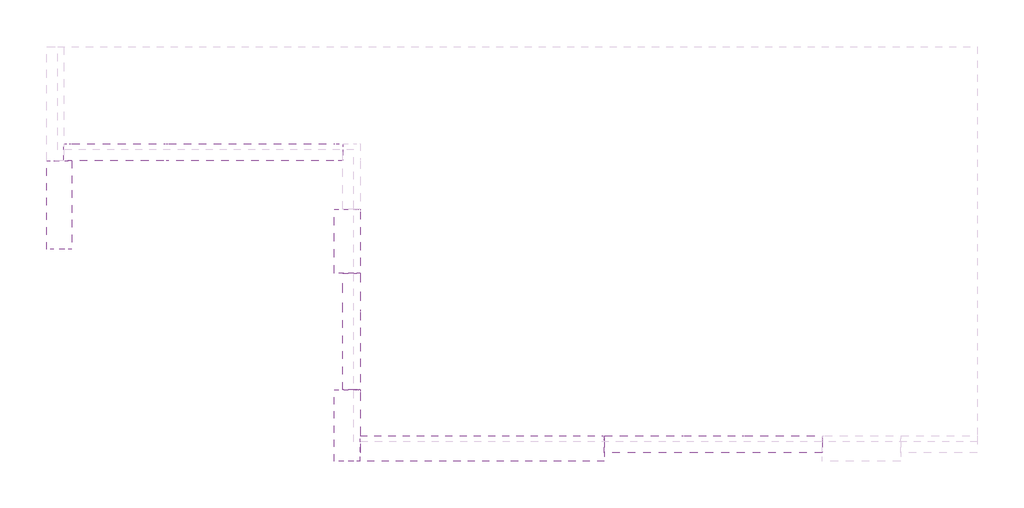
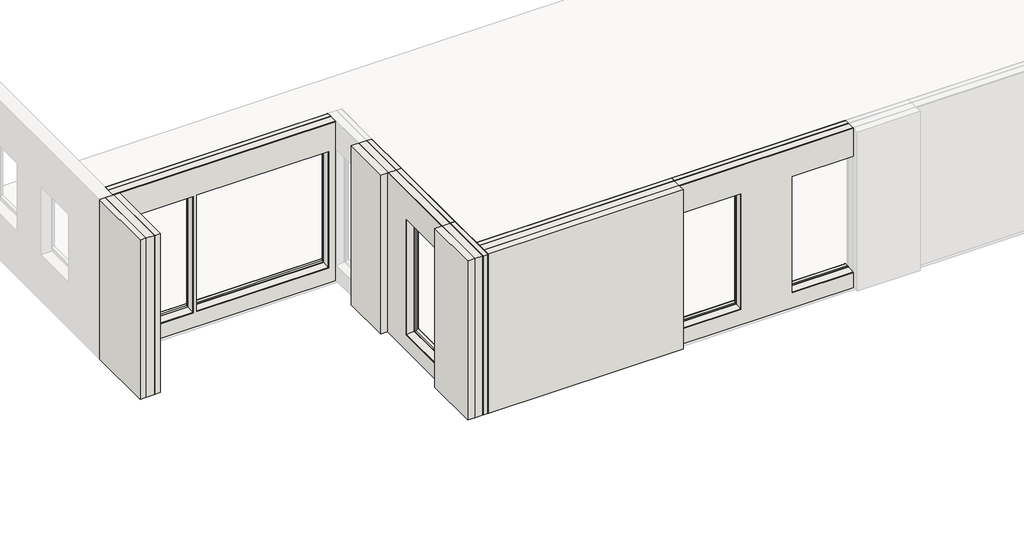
# One storey, part 1 of 2: 7 walls.
"""IFC4 building model written with IfcOpenShell, lengths in millimetres."""

from ifc_helpers import new_model, si_unit, frame, origin, place, context, project, spatial, polyline, outline, extrude, faceted_brep, element, save

model = new_model("IFC4")

# Units and contexts
model_context = context("Model", 3, world=origin())
ifc_project = project(units=[si_unit("LENGTHUNIT", "METRE", prefix="MILLI")], contexts=[model_context])

# Site, building, storey
site = spatial("IfcSite", under=ifc_project)
building = spatial("IfcBuilding", under=site)
storey = spatial("IfcBuildingStorey", under=building, Name="Dalle T.O.", Elevation=-4000.0)

# Walls
placement = place(None, origin())
element("IfcWall", 1, ObjectType="Murs - Mur de base - A Enduit 2 + Béton 20 + vide 1 +  Doublage 13", at=placement, inside=storey, context=model_context, shape_type="Brep", body=[
    faceted_brep([(-18738.6355893, -14338.5662223, 3950.0), (-14238.6355893, -14338.5662223, 3950.0), (-14238.6355893, -14318.5662223, 3950.0), (-18738.6355893, -14318.5662223, 3950.0), (-18738.6355893, -14338.5662223, -400.0), (-18738.6355893, -14318.5662223, -400.0), (-14238.6355893, -14318.5662223, -400.0), (-14238.6355893, -14338.5662223, -400.0), (-18738.6355893, -14338.5662223, 3185.0), (-17138.6355893, -14338.5662223, 3185.0), (-17138.6355893, -14338.5662223, 5.5708141), (-18738.6355893, -14338.5662223, 5.5708141), (-14238.6355893, -14338.5662223, 5.5708141), (-15838.6355893, -14338.5662223, 5.5708141), (-15838.6355893, -14338.5662223, 3185.0), (-14238.6355893, -14338.5662223, 3185.0), (-14238.6355893, -14318.5662223, 3185.0), (-14238.6355893, -14318.5662223, 7.6728988), (-15838.6355893, -14318.5662223, 3185.0), (-15838.6355893, -14318.5662223, 7.6728988), (-18738.6355893, -14318.5662223, 7.6728988), (-17138.6355893, -14318.5662223, 7.6728988), (-17138.6355893, -14318.5662223, 3185.0), (-18738.6355893, -14318.5662223, 3185.0)], [[[0, 1, 2, 3]], [[4, 5, 6, 7]], [[1, 0, 8, 9, 10, 11, 4, 7, 12, 13, 14, 15]], [[2, 1, 15, 16]], [[7, 6, 17, 12]], [[3, 2, 16, 18, 19, 17, 6, 5, 20, 21, 22, 23]], [[0, 3, 23, 8]], [[5, 4, 11, 20]], [[15, 14, 18, 16]], [[13, 12, 17, 19]], [[14, 13, 19, 18]], [[9, 22, 21, 10]], [[22, 9, 8, 23]], [[10, 21, 20, 11]]]),
    faceted_brep([(-18738.6355893, -14318.5662223, 3950.0), (-14238.6355893, -14318.5662223, 3950.0), (-14238.6355893, -14118.5662223, 3950.0), (-18738.6355893, -14118.5662223, 3950.0), (-18738.6355893, -14318.5662223, -400.0), (-18738.6355893, -14118.5662223, -400.0), (-14238.6355893, -14118.5662223, -400.0), (-14238.6355893, -14318.5662223, -400.0), (-18738.6355893, -14318.5662223, 3185.0), (-17138.6355893, -14318.5662223, 3185.0), (-17138.6355893, -14318.5662223, 7.6728988), (-18738.6355893, -14318.5662223, 7.6728988), (-14238.6355893, -14318.5662223, 7.6728988), (-15838.6355893, -14318.5662223, 7.6728988), (-15838.6355893, -14318.5662223, 3185.0), (-14238.6355893, -14318.5662223, 3185.0), (-14238.6355893, -14118.5662223, 3185.0), (-14238.6355893, -14118.5662223, 28.6937459), (-15838.6355893, -14118.5662223, 3185.0), (-15838.6355893, -14118.5662223, 28.6937459), (-18738.6355893, -14118.5662223, 28.6937459), (-17138.6355893, -14118.5662223, 28.6937459), (-17138.6355893, -14118.5662223, 3185.0), (-18738.6355893, -14118.5662223, 3185.0)], [[[0, 1, 2, 3]], [[4, 5, 6, 7]], [[1, 0, 8, 9, 10, 11, 4, 7, 12, 13, 14, 15]], [[2, 1, 15, 16]], [[7, 6, 17, 12]], [[3, 2, 16, 18, 19, 17, 6, 5, 20, 21, 22, 23]], [[0, 3, 23, 8]], [[5, 4, 11, 20]], [[15, 14, 18, 16]], [[13, 12, 17, 19]], [[14, 13, 19, 18]], [[9, 22, 21, 10]], [[22, 9, 8, 23]], [[10, 21, 20, 11]]]),
    faceted_brep([(-18738.6355893, -14118.5662223, 3950.0), (-14238.6355893, -14118.5662223, 3950.0), (-14238.6355893, -14108.5662223, 3950.0), (-18738.6355893, -14108.5662223, 3950.0), (-18738.6355893, -14118.5662223, -400.0), (-18738.6355893, -14108.5662223, -400.0), (-14238.6355893, -14108.5662223, -400.0), (-14238.6355893, -14118.5662223, -400.0), (-18738.6355893, -14118.5662223, 3185.0), (-17138.6355893, -14118.5662223, 3185.0), (-17138.6355893, -14118.5662223, 28.6937459), (-18738.6355893, -14118.5662223, 28.6937459), (-14238.6355893, -14118.5662223, 28.6937459), (-15838.6355893, -14118.5662223, 28.6937459), (-15838.6355893, -14118.5662223, 3185.0), (-14238.6355893, -14118.5662223, 3185.0), (-14238.6355893, -14108.5662223, 3185.0), (-14238.6355893, -14108.5662223, 29.7447882), (-15838.6355893, -14108.5662223, 3185.0), (-15838.6355893, -14108.5662223, 29.7447882), (-18738.6355893, -14108.5662223, 29.7447882), (-17138.6355893, -14108.5662223, 29.7447882), (-17138.6355893, -14108.5662223, 3185.0), (-18738.6355893, -14108.5662223, 3185.0)], [[[0, 1, 2, 3]], [[4, 5, 6, 7]], [[1, 0, 8, 9, 10, 11, 4, 7, 12, 13, 14, 15]], [[2, 1, 15, 16]], [[7, 6, 17, 12]], [[3, 2, 16, 18, 19, 17, 6, 5, 20, 21, 22, 23]], [[0, 3, 23, 8]], [[5, 4, 11, 20]], [[15, 14, 18, 16]], [[13, 12, 17, 19]], [[14, 13, 19, 18]], [[9, 22, 21, 10]], [[22, 9, 8, 23]], [[10, 21, 20, 11]]]),
    faceted_brep([(-18738.6355893, -14108.5662223, 3950.0), (-14238.6355893, -14108.5662223, 3950.0), (-14238.6355893, -13988.5662223, 3950.0), (-18738.6355893, -13988.5662223, 3950.0), (-18738.6355893, -14108.5662223, -400.0), (-18738.6355893, -13988.5662223, -400.0), (-14238.6355893, -13988.5662223, -400.0), (-14238.6355893, -14108.5662223, -400.0), (-18738.6355893, -14108.5662223, 3185.0), (-17138.6355893, -14108.5662223, 3185.0), (-17138.6355893, -14108.5662223, 29.7447882), (-18738.6355893, -14108.5662223, 29.7447882), (-14238.6355893, -14108.5662223, 29.7447882), (-15838.6355893, -14108.5662223, 29.7447882), (-15838.6355893, -14108.5662223, 3185.0), (-14238.6355893, -14108.5662223, 3185.0), (-14238.6355893, -14078.5662223, 3185.0), (-14238.6355893, -14078.5662223, 3195.0), (-14238.6355893, -14028.5662223, 3195.0), (-14238.6355893, -14028.5662223, 3235.0), (-14238.6355893, -13988.5662223, 3235.0), (-14238.6355893, -13988.5662223, 35.0), (-14238.6355893, -14058.5662223, 35.0), (-15888.6355893, -13988.5662223, 3235.0), (-15888.6355893, -13988.5662223, 35.0), (-18738.6355893, -13988.5662223, 35.0), (-17088.6355893, -13988.5662223, 35.0), (-17088.6355893, -13988.5662223, 3235.0), (-18738.6355893, -13988.5662223, 3235.0), (-18738.6355893, -14028.5662223, 3235.0), (-18738.6355893, -14028.5662223, 3195.0), (-18738.6355893, -14078.5662223, 3195.0), (-18738.6355893, -14078.5662223, 3185.0), (-18738.6355893, -14058.5662223, 35.0), (-15888.6355893, -14028.5662223, 35.0), (-15848.6355893, -14028.5662223, 35.0), (-15848.6355893, -14078.5662223, 35.0), (-15838.6355893, -14078.5662223, 35.0), (-15838.6355893, -14058.5662223, 35.0), (-15838.6355893, -14078.5662223, 3185.0), (-15848.6355893, -14028.5662223, 3195.0), (-15888.6355893, -14028.5662223, 3235.0), (-15848.6355893, -14078.5662223, 3195.0), (-17138.6355893, -14078.5662223, 35.0), (-17138.6355893, -14058.5662223, 35.0), (-17138.6355893, -14078.5662223, 3185.0), (-17128.6355893, -14078.5662223, 35.0), (-17128.6355893, -14028.5662223, 35.0), (-17088.6355893, -14028.5662223, 35.0), (-17088.6355893, -14028.5662223, 3235.0), (-17128.6355893, -14028.5662223, 3195.0), (-17128.6355893, -14078.5662223, 3195.0)], [[[0, 1, 2, 3]], [[4, 5, 6, 7]], [[1, 0, 8, 9, 10, 11, 4, 7, 12, 13, 14, 15]], [[2, 1, 15, 16, 17, 18, 19, 20]], [[7, 6, 21, 22, 12]], [[3, 2, 20, 23, 24, 21, 6, 5, 25, 26, 27, 28]], [[0, 3, 28, 29, 30, 31, 32, 8]], [[5, 4, 11, 33, 25]], [[22, 21, 24, 34, 35, 36, 37, 38]], [[15, 14, 39, 16]], [[13, 12, 22, 38]], [[19, 18, 40, 35, 34, 41]], [[17, 16, 39, 37, 36, 42]], [[20, 19, 41, 23]], [[18, 17, 42, 40]], [[24, 23, 41, 34]], [[36, 35, 40, 42]], [[14, 13, 38, 37, 39]], [[43, 44, 10, 9, 45]], [[44, 43, 46, 47, 48, 26, 25, 33]], [[32, 45, 9, 8]], [[44, 33, 11, 10]], [[48, 49, 27, 26]], [[48, 47, 50, 30, 29, 49]], [[47, 46, 51, 50]], [[43, 45, 32, 31, 51, 46]], [[27, 49, 29, 28]], [[50, 51, 31, 30]]]),
    faceted_brep([(-18738.6355893, -13988.5662223, 3950.0), (-14238.6355893, -13988.5662223, 3950.0), (-14238.6355893, -13978.5662223, 3950.0), (-18738.6355893, -13978.5662223, 3950.0), (-18738.6355893, -13988.5662223, -400.0), (-18738.6355893, -13978.5662223, -400.0), (-14238.6355893, -13978.5662223, -400.0), (-14238.6355893, -13988.5662223, -400.0), (-18738.6355893, -13988.5662223, 3235.0), (-17088.6355893, -13988.5662223, 3235.0), (-17088.6355893, -13988.5662223, 35.0), (-18738.6355893, -13988.5662223, 35.0), (-14238.6355893, -13988.5662223, 35.0), (-15888.6355893, -13988.5662223, 35.0), (-15888.6355893, -13988.5662223, 3235.0), (-14238.6355893, -13988.5662223, 3235.0), (-14238.6355893, -13978.5662223, 3235.0), (-14238.6355893, -13978.5662223, 35.0), (-15888.6355893, -13978.5662223, 3235.0), (-15888.6355893, -13978.5662223, 35.0), (-15838.6355893, -13978.5662223, 35.0), (-18738.6355893, -13978.5662223, 35.0), (-17138.6355893, -13978.5662223, 35.0), (-17088.6355893, -13978.5662223, 35.0), (-17088.6355893, -13978.5662223, 3235.0), (-18738.6355893, -13978.5662223, 3235.0)], [[[0, 1, 2, 3]], [[4, 5, 6, 7]], [[1, 0, 8, 9, 10, 11, 4, 7, 12, 13, 14, 15]], [[2, 1, 15, 16]], [[7, 6, 17, 12]], [[3, 2, 16, 18, 19, 20, 17, 6, 5, 21, 22, 23, 24, 25]], [[0, 3, 25, 8]], [[5, 4, 11, 21]], [[13, 12, 17, 20, 19]], [[15, 14, 18, 16]], [[14, 13, 19, 18]], [[10, 23, 22, 21, 11]], [[23, 10, 9, 24]], [[24, 9, 8, 25]]]),
])
element("IfcWall", 2, ObjectType="Murs - Mur de base - A Parement pierre 19 + Béton 20 + vide 1 +   Doublage 14", at=placement, inside=storey, context=model_context, shape_type="SolidModel", body=[
    faceted_brep([(-23778.2803137, -14508.5662223, 3950.0), (-18738.6355893, -14508.5662223, 3950.0), (-18738.6355893, -14318.5662223, 3950.0), (-23778.2803137, -14318.5662223, 3950.0), (-23778.2803137, -14508.5662223, -400.0), (-23778.2803137, -14318.5662223, -400.0), (-18738.6355893, -14318.5662223, -400.0), (-18738.6355893, -14508.5662223, -400.0), (-18738.6355893, -14508.5662223, 0.0), (-18738.6355893, -14508.5662223, 3185.0), (-18738.6355893, -14318.5662223, 7.6728988), (-18738.6355893, -14318.5662223, 3185.0)], [[[0, 1, 2, 3]], [[4, 5, 6, 7]], [[1, 0, 4, 7, 8, 9]], [[2, 1, 9, 8, 7, 6, 10, 11]], [[3, 2, 11, 10, 6, 5]], [[0, 3, 5, 4]]]),
    faceted_brep([(-23778.2803137, -14318.5662223, 3950.0), (-18738.6355893, -14318.5662223, 3950.0), (-18738.6355893, -14118.5662223, 3950.0), (-23778.2803137, -14118.5662223, 3950.0), (-23778.2803137, -14318.5662223, -400.0), (-23778.2803137, -14118.5662223, -400.0), (-18738.6355893, -14118.5662223, -400.0), (-18738.6355893, -14318.5662223, -400.0), (-18738.6355893, -14318.5662223, 7.6728988), (-18738.6355893, -14318.5662223, 3185.0), (-18738.6355893, -14118.5662223, 28.6937459), (-18738.6355893, -14118.5662223, 3185.0)], [[[0, 1, 2, 3]], [[4, 5, 6, 7]], [[1, 0, 4, 7, 8, 9]], [[2, 1, 9, 8, 7, 6, 10, 11]], [[3, 2, 11, 10, 6, 5]], [[0, 3, 5, 4]]]),
    faceted_brep([(-23778.2803137, -14118.5662223, 3950.0), (-18738.6355893, -14118.5662223, 3950.0), (-18738.6355893, -14108.5662223, 3950.0), (-23778.2803137, -14108.5662223, 3950.0), (-23778.2803137, -14118.5662223, -400.0), (-23778.2803137, -14108.5662223, -400.0), (-18738.6355893, -14108.5662223, -400.0), (-18738.6355893, -14118.5662223, -400.0), (-18738.6355893, -14118.5662223, 28.6937459), (-18738.6355893, -14118.5662223, 3185.0), (-18738.6355893, -14108.5662223, 29.7447882), (-18738.6355893, -14108.5662223, 3185.0)], [[[0, 1, 2, 3]], [[4, 5, 6, 7]], [[1, 0, 4, 7, 8, 9]], [[2, 1, 9, 8, 7, 6, 10, 11]], [[3, 2, 11, 10, 6, 5]], [[0, 3, 5, 4]]]),
    faceted_brep([(-23778.2803137, -14108.5662223, 3950.0), (-18738.6355893, -14108.5662223, 3950.0), (-18738.6355893, -13988.5662223, 3950.0), (-23778.2803137, -13988.5662223, 3950.0), (-23778.2803137, -14108.5662223, -400.0), (-23778.2803137, -13988.5662223, -400.0), (-18738.6355893, -13988.5662223, -400.0), (-18738.6355893, -14108.5662223, -400.0), (-18738.6355893, -14108.5662223, 29.7447882), (-18738.6355893, -14108.5662223, 3185.0), (-18738.6355893, -13988.5662223, 35.0), (-18738.6355893, -14058.5662223, 35.0), (-18738.6355893, -14078.5662223, 35.0), (-18738.6355893, -14078.5662223, 3185.0), (-18738.6355893, -14078.5662223, 3195.0), (-18738.6355893, -14028.5662223, 3195.0), (-18738.6355893, -14028.5662223, 3235.0), (-18738.6355893, -13988.5662223, 3235.0), (-18788.6355893, -13988.5662223, 3235.0), (-18788.6355893, -13988.5662223, 35.0), (-18748.6355893, -14078.5662223, 35.0), (-18788.6355893, -14028.5662223, 35.0), (-18748.6355893, -14028.5662223, 35.0), (-18788.6355893, -14028.5662223, 3235.0), (-18748.6355893, -14028.5662223, 3195.0), (-18748.6355893, -14078.5662223, 3195.0)], [[[0, 1, 2, 3]], [[4, 5, 6, 7]], [[1, 0, 4, 7, 8, 9]], [[2, 1, 9, 8, 7, 6, 10, 11, 12, 13, 14, 15, 16, 17]], [[3, 2, 17, 18, 19, 10, 6, 5]], [[0, 3, 5, 4]], [[20, 12, 11, 10, 19, 21, 22]], [[22, 21, 23, 16, 15, 24]], [[12, 20, 25, 14, 13]], [[16, 23, 18, 17]], [[25, 24, 15, 14]], [[23, 21, 19, 18]], [[20, 22, 24, 25]]]),
    extrude(outline(polyline([(3950.0, -18738.6355893), (3950.0, -23778.2803137), (-400.0, -23778.2803137), (-400.0, -18738.6355893), (35.0, -18738.6355893), (35.0, -18788.6355893), (3235.0, -18788.6355893), (3235.0, -18738.6355893), (3950.0, -18738.6355893)])), frame((0.0, -13988.5662223, 0.0), z_axis=(0.0, 1.0, 0.0), x_axis=(0.0, 0.0, 1.0)), (0.0, 0.0, 1.0), 10.0),
])
element("IfcWall", 3, ObjectType="Murs - Mur de base - A Parement pierre 19 + Béton 20 + vide 1 +   Doublage 14", at=placement, inside=storey, context=model_context, shape_type="SolidModel", body=[
    faceted_brep([(-24308.2803137, -13036.9624952, 3950.0), (-24308.2803137, -14508.5662223, 3950.0), (-24118.2803137, -14508.5662223, 3950.0), (-24118.2803137, -13036.9624952, 3950.0), (-24308.2803137, -13036.9624952, -400.0), (-24118.2803137, -13036.9624952, -400.0), (-24118.2803137, -14508.5662223, -400.0), (-24308.2803137, -14508.5662223, -400.0), (-24308.2803137, -13036.9624952, 3185.0), (-24308.2803137, -13036.9624952, 0.0), (-24118.2803137, -13036.9624952, 7.6728988), (-24118.2803137, -13036.9624952, 3185.0)], [[[0, 1, 2, 3]], [[4, 5, 6, 7]], [[1, 0, 8, 9, 4, 7]], [[2, 1, 7, 6]], [[3, 2, 6, 5, 10, 11]], [[0, 3, 11, 10, 5, 4, 9, 8]]]),
    faceted_brep([(-24118.2803137, -13036.9624952, 3950.0), (-24118.2803137, -14508.5662223, 3950.0), (-23918.2803137, -14508.5662223, 3950.0), (-23918.2803137, -13036.9624952, 3950.0), (-24118.2803137, -13036.9624952, -400.0), (-23918.2803137, -13036.9624952, -400.0), (-23918.2803137, -14508.5662223, -400.0), (-24118.2803137, -14508.5662223, -400.0), (-24118.2803137, -13036.9624952, 3185.0), (-24118.2803137, -13036.9624952, 7.6728988), (-23918.2803137, -13036.9624952, 28.6937459), (-23918.2803137, -13036.9624952, 3185.0)], [[[0, 1, 2, 3]], [[4, 5, 6, 7]], [[1, 0, 8, 9, 4, 7]], [[2, 1, 7, 6]], [[3, 2, 6, 5, 10, 11]], [[0, 3, 11, 10, 5, 4, 9, 8]]]),
    faceted_brep([(-23918.2803137, -13036.9624952, 3950.0), (-23918.2803137, -14508.5662223, 3950.0), (-23908.2803137, -14508.5662223, 3950.0), (-23908.2803137, -13036.9624952, 3950.0), (-23918.2803137, -13036.9624952, -400.0), (-23908.2803137, -13036.9624952, -400.0), (-23908.2803137, -14508.5662223, -400.0), (-23918.2803137, -14508.5662223, -400.0), (-23918.2803137, -13036.9624952, 3185.0), (-23918.2803137, -13036.9624952, 28.6937459), (-23908.2803137, -13036.9624952, 29.7447882), (-23908.2803137, -13036.9624952, 3185.0)], [[[0, 1, 2, 3]], [[4, 5, 6, 7]], [[1, 0, 8, 9, 4, 7]], [[2, 1, 7, 6]], [[3, 2, 6, 5, 10, 11]], [[0, 3, 11, 10, 5, 4, 9, 8]]]),
    faceted_brep([(-23908.2803137, -13036.9624952, 3950.0), (-23908.2803137, -14508.5662223, 3950.0), (-23788.2803137, -14508.5662223, 3950.0), (-23788.2803137, -13036.9624952, 3950.0), (-23908.2803137, -13036.9624952, -400.0), (-23788.2803137, -13036.9624952, -400.0), (-23788.2803137, -14508.5662223, -400.0), (-23908.2803137, -14508.5662223, -400.0), (-23908.2803137, -13036.9624952, 3185.0), (-23908.2803137, -13036.9624952, 29.7447882), (-23788.2803137, -13036.9624952, 35.0), (-23788.2803137, -13086.9624952, 35.0), (-23788.2803137, -13086.9624952, 3235.0), (-23788.2803137, -13036.9624952, 3235.0), (-23828.2803137, -13036.9624952, 3235.0), (-23828.2803137, -13036.9624952, 3195.0), (-23878.2803137, -13036.9624952, 3195.0), (-23878.2803137, -13036.9624952, 3185.0), (-23878.2803137, -13036.9624952, 35.0), (-23858.2803137, -13036.9624952, 35.0), (-23828.2803137, -13046.9624952, 35.0), (-23828.2803137, -13086.9624952, 35.0), (-23878.2803137, -13046.9624952, 35.0), (-23828.2803137, -13086.9624952, 3235.0), (-23828.2803137, -13046.9624952, 3195.0), (-23878.2803137, -13046.9624952, 3195.0)], [[[0, 1, 2, 3]], [[4, 5, 6, 7]], [[1, 0, 8, 9, 4, 7]], [[2, 1, 7, 6]], [[3, 2, 6, 5, 10, 11, 12, 13]], [[0, 3, 13, 14, 15, 16, 17, 18, 19, 10, 5, 4, 9, 8]], [[20, 21, 11, 10, 19, 18, 22]], [[21, 23, 12, 11]], [[21, 20, 24, 15, 14, 23]], [[20, 22, 25, 24]], [[22, 18, 17, 16, 25]], [[12, 23, 14, 13]], [[24, 25, 16, 15]]]),
    extrude(outline(polyline([(-14508.5662223, 3950.0), (-13036.9624952, 3950.0), (-13036.9624952, 3235.0), (-13086.9624952, 3235.0), (-13086.9624952, 35.0), (-13036.9624952, 35.0), (-13036.9624952, -400.0), (-14508.5662223, -400.0), (-14508.5662223, 3950.0)])), frame((-23788.2803137, 0.0, 0.0), z_axis=(1.0, 0.0, 0.0), x_axis=(0.0, 1.0, 0.0)), (0.0, 0.0, 1.0), 10.0),
])
element("IfcWall", 4, ObjectType="Murs - Mur de base - A Enduit 2 + Béton 20 + vide 1 +  Doublage 13", at=placement, inside=storey, context=model_context, shape_type="Brep", body=[
    faceted_brep([(-24138.2803137, -10630.5073036, 3950.0), (-24138.2803137, -13036.9624952, 3950.0), (-24118.2803137, -13036.9624952, 3950.0), (-24118.2803137, -10630.5073036, 3950.0), (-24138.2803137, -10630.5073036, -400.0), (-24118.2803137, -10630.5073036, -400.0), (-24118.2803137, -13036.9624952, -400.0), (-24138.2803137, -13036.9624952, -400.0), (-24138.2803137, -13036.9624952, 5.5708141), (-24138.2803137, -11436.9624952, 5.5708141), (-24138.2803137, -11436.9624952, 3185.0), (-24138.2803137, -13036.9624952, 3185.0), (-24118.2803137, -13036.9624952, 3185.0), (-24118.2803137, -13036.9624952, 7.6728988), (-24118.2803137, -11436.9624952, 3185.0), (-24118.2803137, -11436.9624952, 7.6728988)], [[[0, 1, 2, 3]], [[4, 5, 6, 7]], [[1, 0, 4, 7, 8, 9, 10, 11]], [[2, 1, 11, 12]], [[7, 6, 13, 8]], [[3, 2, 12, 14, 15, 13, 6, 5]], [[0, 3, 5, 4]], [[10, 14, 12, 11]], [[15, 9, 8, 13]], [[14, 10, 9, 15]]]),
    faceted_brep([(-24118.2803137, -10630.5073036, 3950.0), (-24118.2803137, -13036.9624952, 3950.0), (-23918.2803137, -13036.9624952, 3950.0), (-23918.2803137, -10630.5073036, 3950.0), (-24118.2803137, -10630.5073036, -400.0), (-23918.2803137, -10630.5073036, -400.0), (-23918.2803137, -13036.9624952, -400.0), (-24118.2803137, -13036.9624952, -400.0), (-24118.2803137, -13036.9624952, 7.6728988), (-24118.2803137, -11436.9624952, 7.6728988), (-24118.2803137, -11436.9624952, 3185.0), (-24118.2803137, -13036.9624952, 3185.0), (-23918.2803137, -13036.9624952, 3185.0), (-23918.2803137, -13036.9624952, 28.6937459), (-23918.2803137, -11436.9624952, 3185.0), (-23918.2803137, -11436.9624952, 28.6937459)], [[[0, 1, 2, 3]], [[4, 5, 6, 7]], [[1, 0, 4, 7, 8, 9, 10, 11]], [[2, 1, 11, 12]], [[7, 6, 13, 8]], [[3, 2, 12, 14, 15, 13, 6, 5]], [[0, 3, 5, 4]], [[10, 14, 12, 11]], [[15, 9, 8, 13]], [[14, 10, 9, 15]]]),
    faceted_brep([(-23918.2803137, -10630.5073036, 3950.0), (-23918.2803137, -13036.9624952, 3950.0), (-23908.2803137, -13036.9624952, 3950.0), (-23908.2803137, -10630.5073036, 3950.0), (-23918.2803137, -10630.5073036, -400.0), (-23908.2803137, -10630.5073036, -400.0), (-23908.2803137, -13036.9624952, -400.0), (-23918.2803137, -13036.9624952, -400.0), (-23918.2803137, -13036.9624952, 28.6937459), (-23918.2803137, -11436.9624952, 28.6937459), (-23918.2803137, -11436.9624952, 3185.0), (-23918.2803137, -13036.9624952, 3185.0), (-23908.2803137, -13036.9624952, 3185.0), (-23908.2803137, -13036.9624952, 29.7447882), (-23908.2803137, -11436.9624952, 3185.0), (-23908.2803137, -11436.9624952, 29.7447882)], [[[0, 1, 2, 3]], [[4, 5, 6, 7]], [[1, 0, 4, 7, 8, 9, 10, 11]], [[2, 1, 11, 12]], [[7, 6, 13, 8]], [[3, 2, 12, 14, 15, 13, 6, 5]], [[0, 3, 5, 4]], [[10, 14, 12, 11]], [[15, 9, 8, 13]], [[14, 10, 9, 15]]]),
    faceted_brep([(-23908.2803137, -10630.5073036, 3950.0), (-23908.2803137, -13036.9624952, 3950.0), (-23788.2803137, -13036.9624952, 3950.0), (-23788.2803137, -10630.5073036, 3950.0), (-23908.2803137, -10630.5073036, -400.0), (-23788.2803137, -10630.5073036, -400.0), (-23788.2803137, -13036.9624952, -400.0), (-23908.2803137, -13036.9624952, -400.0), (-23908.2803137, -13036.9624952, 29.7447882), (-23908.2803137, -11436.9624952, 29.7447882), (-23908.2803137, -11436.9624952, 3185.0), (-23908.2803137, -13036.9624952, 3185.0), (-23878.2803137, -13036.9624952, 3185.0), (-23878.2803137, -13036.9624952, 3195.0), (-23828.2803137, -13036.9624952, 3195.0), (-23828.2803137, -13036.9624952, 3235.0), (-23788.2803137, -13036.9624952, 3235.0), (-23788.2803137, -13036.9624952, 35.0), (-23858.2803137, -13036.9624952, 35.0), (-23788.2803137, -11386.9624952, 3235.0), (-23788.2803137, -11386.9624952, 35.0), (-23858.2803137, -11436.9624952, 35.0), (-23828.2803137, -11386.9624952, 35.0), (-23828.2803137, -11426.9624952, 35.0), (-23878.2803137, -11426.9624952, 35.0), (-23878.2803137, -11436.9624952, 35.0), (-23878.2803137, -11436.9624952, 3185.0), (-23828.2803137, -11386.9624952, 3235.0), (-23828.2803137, -11426.9624952, 3195.0), (-23878.2803137, -11426.9624952, 3195.0)], [[[0, 1, 2, 3]], [[4, 5, 6, 7]], [[1, 0, 4, 7, 8, 9, 10, 11]], [[2, 1, 11, 12, 13, 14, 15, 16]], [[7, 6, 17, 18, 8]], [[3, 2, 16, 19, 20, 17, 6, 5]], [[0, 3, 5, 4]], [[21, 18, 17, 20, 22, 23, 24, 25]], [[26, 12, 11, 10]], [[18, 21, 9, 8]], [[23, 22, 27, 15, 14, 28]], [[25, 24, 29, 13, 12, 26]], [[15, 27, 19, 16]], [[29, 28, 14, 13]], [[27, 22, 20, 19]], [[24, 23, 28, 29]], [[21, 25, 26, 10, 9]]]),
    faceted_brep([(-23788.2803137, -10630.5073036, 3950.0), (-23788.2803137, -13036.9624952, 3950.0), (-23778.2803137, -13036.9624952, 3950.0), (-23778.2803137, -10630.5073036, 3950.0), (-23788.2803137, -10630.5073036, -400.0), (-23778.2803137, -10630.5073036, -400.0), (-23778.2803137, -13036.9624952, -400.0), (-23788.2803137, -13036.9624952, -400.0), (-23788.2803137, -13036.9624952, 35.0), (-23788.2803137, -11386.9624952, 35.0), (-23788.2803137, -11386.9624952, 3235.0), (-23788.2803137, -13036.9624952, 3235.0), (-23778.2803137, -13036.9624952, 3235.0), (-23778.2803137, -13036.9624952, 35.0), (-23778.2803137, -11386.9624952, 3235.0), (-23778.2803137, -11386.9624952, 35.0), (-23778.2803137, -11436.9624952, 35.0)], [[[0, 1, 2, 3]], [[4, 5, 6, 7]], [[1, 0, 4, 7, 8, 9, 10, 11]], [[2, 1, 11, 12]], [[7, 6, 13, 8]], [[3, 2, 12, 14, 15, 16, 13, 6, 5]], [[0, 3, 5, 4]], [[15, 9, 8, 13, 16]], [[10, 14, 12, 11]], [[9, 15, 14, 10]]]),
])
element("IfcWall", 5, ObjectType="Murs - Mur de base - A Parement pierre 19 + Béton 20 + vide 1 +   Doublage 14", at=placement, inside=storey, context=model_context, shape_type="SolidModel", body=[
    faceted_brep([(-24308.2803137, -9310.0211289, 3950.0), (-24308.2803137, -10630.5073036, 3950.0), (-24118.2803137, -10630.5073036, 3950.0), (-24118.2803137, -9310.0211289, 3950.0), (-24308.2803137, -9310.0211289, -400.0), (-24118.2803137, -9310.0211289, -400.0), (-24118.2803137, -10630.5073036, -400.0), (-24308.2803137, -10630.5073036, -400.0), (-24308.2803137, -9310.0211289, 3185.0), (-24308.2803137, -9310.0211289, 0.0), (-24118.2803137, -9310.0211289, 7.6728988), (-24118.2803137, -9310.0211289, 3185.0)], [[[0, 1, 2, 3]], [[4, 5, 6, 7]], [[1, 0, 8, 9, 4, 7]], [[2, 1, 7, 6]], [[3, 2, 6, 5, 10, 11]], [[0, 3, 11, 10, 5, 4, 9, 8]]]),
    faceted_brep([(-24118.2803137, -9310.0211289, 3950.0), (-24118.2803137, -10630.5073036, 3950.0), (-23918.2803137, -10630.5073036, 3950.0), (-23918.2803137, -9310.0211289, 3950.0), (-24118.2803137, -9310.0211289, -400.0), (-23918.2803137, -9310.0211289, -400.0), (-23918.2803137, -10630.5073036, -400.0), (-24118.2803137, -10630.5073036, -400.0), (-24118.2803137, -9310.0211289, 3185.0), (-24118.2803137, -9310.0211289, 7.6728988), (-23918.2803137, -9310.0211289, 28.6937459), (-23918.2803137, -9310.0211289, 3185.0)], [[[0, 1, 2, 3]], [[4, 5, 6, 7]], [[1, 0, 8, 9, 4, 7]], [[2, 1, 7, 6]], [[3, 2, 6, 5, 10, 11]], [[0, 3, 11, 10, 5, 4, 9, 8]]]),
    faceted_brep([(-23918.2803137, -9310.0211289, 3950.0), (-23918.2803137, -10630.5073036, 3950.0), (-23908.2803137, -10630.5073036, 3950.0), (-23908.2803137, -9310.0211289, 3950.0), (-23918.2803137, -9310.0211289, -400.0), (-23908.2803137, -9310.0211289, -400.0), (-23908.2803137, -10630.5073036, -400.0), (-23918.2803137, -10630.5073036, -400.0), (-23918.2803137, -9310.0211289, 3185.0), (-23918.2803137, -9310.0211289, 28.6937459), (-23908.2803137, -9310.0211289, 29.7447882), (-23908.2803137, -9310.0211289, 3185.0)], [[[0, 1, 2, 3]], [[4, 5, 6, 7]], [[1, 0, 8, 9, 4, 7]], [[2, 1, 7, 6]], [[3, 2, 6, 5, 10, 11]], [[0, 3, 11, 10, 5, 4, 9, 8]]]),
    faceted_brep([(-23908.2803137, -9310.0211289, 3950.0), (-23908.2803137, -10630.5073036, 3950.0), (-23788.2803137, -10630.5073036, 3950.0), (-23788.2803137, -9310.0211289, 3950.0), (-23908.2803137, -9310.0211289, -400.0), (-23788.2803137, -9310.0211289, -400.0), (-23788.2803137, -10630.5073036, -400.0), (-23908.2803137, -10630.5073036, -400.0), (-23908.2803137, -9310.0211289, 3185.0), (-23908.2803137, -9310.0211289, 29.7447882), (-23788.2803137, -9310.0211289, 35.0), (-23788.2803137, -9360.0211289, 35.0), (-23788.2803137, -9360.0211289, 3235.0), (-23788.2803137, -9310.0211289, 3235.0), (-23828.2803137, -9310.0211289, 3235.0), (-23828.2803137, -9310.0211289, 3195.0), (-23878.2803137, -9310.0211289, 3195.0), (-23878.2803137, -9310.0211289, 3185.0), (-23878.2803137, -9310.0211289, 35.0), (-23858.2803137, -9310.0211289, 35.0), (-23828.2803137, -9320.0211289, 35.0), (-23828.2803137, -9360.0211289, 35.0), (-23878.2803137, -9320.0211289, 35.0), (-23828.2803137, -9360.0211289, 3235.0), (-23828.2803137, -9320.0211289, 3195.0), (-23878.2803137, -9320.0211289, 3195.0)], [[[0, 1, 2, 3]], [[4, 5, 6, 7]], [[1, 0, 8, 9, 4, 7]], [[2, 1, 7, 6]], [[3, 2, 6, 5, 10, 11, 12, 13]], [[0, 3, 13, 14, 15, 16, 17, 18, 19, 10, 5, 4, 9, 8]], [[20, 21, 11, 10, 19, 18, 22]], [[21, 23, 12, 11]], [[21, 20, 24, 15, 14, 23]], [[20, 22, 25, 24]], [[22, 18, 17, 16, 25]], [[12, 23, 14, 13]], [[24, 25, 16, 15]]]),
    extrude(outline(polyline([(-10630.5073036, 3950.0), (-9310.0211289, 3950.0), (-9310.0211289, 3235.0), (-9360.0211289, 3235.0), (-9360.0211289, 35.0), (-9310.0211289, 35.0), (-9310.0211289, -400.0), (-10630.5073036, -400.0), (-10630.5073036, 3950.0)])), frame((-23788.2803137, 0.0, 0.0), z_axis=(1.0, 0.0, 0.0), x_axis=(0.0, 1.0, 0.0)), (0.0, 0.0, 1.0), 10.0),
])
element("IfcWall", 6, ObjectType="Murs - Mur de base - A Enduit 2 + Béton 20 + vide 1 +  Doublage 13", at=placement, inside=storey, context=model_context, shape_type="Brep", body=[
    faceted_brep([(-29887.0149756, -8313.0211289, 3950.0), (-24138.2803137, -8313.0211289, 3950.0), (-24138.2803137, -8293.0211289, 3950.0), (-29887.0149756, -8293.0211289, 3950.0), (-29887.0149756, -8313.0211289, -400.0), (-29887.0149756, -8293.0211289, -400.0), (-24138.2803137, -8293.0211289, -400.0), (-24138.2803137, -8313.0211289, -400.0), (-27823.4832661, -8313.0211289, 3185.0), (-27823.4832661, -8313.0211289, 5.5708141), (-29723.4832661, -8313.0211289, 5.5708141), (-29723.4832661, -8313.0211289, 3185.0), (-24322.6070707, -8313.0211289, 3185.0), (-24322.6070707, -8313.0211289, 5.5708141), (-27722.6070707, -8313.0211289, 5.5708141), (-27722.6070707, -8313.0211289, 3185.0), (-27823.4832661, -8293.0211289, 7.6728988), (-27823.4832661, -8293.0211289, 3185.0), (-29723.4832661, -8293.0211289, 3185.0), (-29723.4832661, -8293.0211289, 7.6728988), (-24322.6070707, -8293.0211289, 7.6728988), (-24322.6070707, -8293.0211289, 3185.0), (-27722.6070707, -8293.0211289, 3185.0), (-27722.6070707, -8293.0211289, 7.6728988)], [[[0, 1, 2, 3]], [[4, 5, 6, 7]], [[1, 0, 4, 7], [8, 9, 10, 11], [12, 13, 14, 15]], [[2, 1, 7, 6]], [[3, 2, 6, 5], [16, 17, 18, 19], [20, 21, 22, 23]], [[0, 3, 5, 4]], [[9, 8, 17, 16]], [[8, 11, 18, 17]], [[10, 9, 16, 19]], [[11, 10, 19, 18]], [[12, 21, 20, 13]], [[21, 12, 15, 22]], [[13, 20, 23, 14]], [[22, 15, 14, 23]]]),
    faceted_brep([(-29887.0149756, -8293.0211289, 3950.0), (-24138.2803137, -8293.0211289, 3950.0), (-24138.2803137, -8093.0211289, 3950.0), (-29887.0149756, -8093.0211289, 3950.0), (-29887.0149756, -8293.0211289, -400.0), (-29887.0149756, -8093.0211289, -400.0), (-24138.2803137, -8093.0211289, -400.0), (-24138.2803137, -8293.0211289, -400.0), (-27823.4832661, -8293.0211289, 3185.0), (-27823.4832661, -8293.0211289, 7.6728988), (-29723.4832661, -8293.0211289, 7.6728988), (-29723.4832661, -8293.0211289, 3185.0), (-24322.6070707, -8293.0211289, 3185.0), (-24322.6070707, -8293.0211289, 7.6728988), (-27722.6070707, -8293.0211289, 7.6728988), (-27722.6070707, -8293.0211289, 3185.0), (-27823.4832661, -8093.0211289, 28.6937459), (-27823.4832661, -8093.0211289, 3185.0), (-29723.4832661, -8093.0211289, 3185.0), (-29723.4832661, -8093.0211289, 28.6937459), (-24322.6070707, -8093.0211289, 28.6937459), (-24322.6070707, -8093.0211289, 3185.0), (-27722.6070707, -8093.0211289, 3185.0), (-27722.6070707, -8093.0211289, 28.6937459)], [[[0, 1, 2, 3]], [[4, 5, 6, 7]], [[1, 0, 4, 7], [8, 9, 10, 11], [12, 13, 14, 15]], [[2, 1, 7, 6]], [[3, 2, 6, 5], [16, 17, 18, 19], [20, 21, 22, 23]], [[0, 3, 5, 4]], [[9, 8, 17, 16]], [[8, 11, 18, 17]], [[10, 9, 16, 19]], [[11, 10, 19, 18]], [[12, 21, 20, 13]], [[21, 12, 15, 22]], [[13, 20, 23, 14]], [[22, 15, 14, 23]]]),
    faceted_brep([(-29887.0149756, -8093.0211289, 3950.0), (-24138.2803137, -8093.0211289, 3950.0), (-24138.2803137, -8083.0211289, 3950.0), (-29887.0149756, -8083.0211289, 3950.0), (-29887.0149756, -8093.0211289, -400.0), (-29887.0149756, -8083.0211289, -400.0), (-24138.2803137, -8083.0211289, -400.0), (-24138.2803137, -8093.0211289, -400.0), (-27823.4832661, -8093.0211289, 3185.0), (-27823.4832661, -8093.0211289, 28.6937459), (-29723.4832661, -8093.0211289, 28.6937459), (-29723.4832661, -8093.0211289, 3185.0), (-24322.6070707, -8093.0211289, 3185.0), (-24322.6070707, -8093.0211289, 28.6937459), (-27722.6070707, -8093.0211289, 28.6937459), (-27722.6070707, -8093.0211289, 3185.0), (-27823.4832661, -8083.0211289, 29.7447882), (-27823.4832661, -8083.0211289, 3185.0), (-29723.4832661, -8083.0211289, 3185.0), (-29723.4832661, -8083.0211289, 29.7447882), (-24322.6070707, -8083.0211289, 29.7447882), (-24322.6070707, -8083.0211289, 3185.0), (-27722.6070707, -8083.0211289, 3185.0), (-27722.6070707, -8083.0211289, 29.7447882)], [[[0, 1, 2, 3]], [[4, 5, 6, 7]], [[1, 0, 4, 7], [8, 9, 10, 11], [12, 13, 14, 15]], [[2, 1, 7, 6]], [[3, 2, 6, 5], [16, 17, 18, 19], [20, 21, 22, 23]], [[0, 3, 5, 4]], [[9, 8, 17, 16]], [[8, 11, 18, 17]], [[10, 9, 16, 19]], [[11, 10, 19, 18]], [[12, 21, 20, 13]], [[21, 12, 15, 22]], [[13, 20, 23, 14]], [[22, 15, 14, 23]]]),
    faceted_brep([(-29887.0149756, -8083.0211289, 3950.0), (-24138.2803137, -8083.0211289, 3950.0), (-24138.2803137, -7963.0211289, 3950.0), (-29887.0149756, -7963.0211289, 3950.0), (-29887.0149756, -8083.0211289, -400.0), (-29887.0149756, -7963.0211289, -400.0), (-24138.2803137, -7963.0211289, -400.0), (-24138.2803137, -8083.0211289, -400.0), (-27823.4832661, -8083.0211289, 3185.0), (-27823.4832661, -8083.0211289, 29.7447882), (-29723.4832661, -8083.0211289, 29.7447882), (-29723.4832661, -8083.0211289, 3185.0), (-24322.6070707, -8083.0211289, 3185.0), (-24322.6070707, -8083.0211289, 29.7447882), (-27722.6070707, -8083.0211289, 29.7447882), (-27722.6070707, -8083.0211289, 3185.0), (-29773.4832661, -7963.0211289, 35.0), (-27773.4832661, -7963.0211289, 35.0), (-27773.4832661, -7963.0211289, 3235.0), (-29773.4832661, -7963.0211289, 3235.0), (-27772.6070707, -7963.0211289, 35.0), (-24272.6070707, -7963.0211289, 35.0), (-24272.6070707, -7963.0211289, 3235.0), (-27772.6070707, -7963.0211289, 3235.0), (-27823.4832661, -8053.0211289, 3185.0), (-27823.4832661, -8053.0211289, 35.0), (-27823.4832661, -8033.0211289, 35.0), (-29773.4832661, -8003.0211289, 35.0), (-29733.4832661, -8003.0211289, 35.0), (-29733.4832661, -8053.0211289, 35.0), (-29723.4832661, -8053.0211289, 35.0), (-29723.4832661, -8033.0211289, 35.0), (-27813.4832661, -8053.0211289, 35.0), (-27813.4832661, -8003.0211289, 35.0), (-27773.4832661, -8003.0211289, 35.0), (-29723.4832661, -8053.0211289, 3185.0), (-27773.4832661, -8003.0211289, 3235.0), (-27813.4832661, -8003.0211289, 3195.0), (-29733.4832661, -8003.0211289, 3195.0), (-29773.4832661, -8003.0211289, 3235.0), (-27813.4832661, -8053.0211289, 3195.0), (-29733.4832661, -8053.0211289, 3195.0), (-24322.6070707, -8053.0211289, 35.0), (-24322.6070707, -8033.0211289, 35.0), (-24322.6070707, -8053.0211289, 3185.0), (-24312.6070707, -8053.0211289, 35.0), (-24312.6070707, -8003.0211289, 35.0), (-24272.6070707, -8003.0211289, 35.0), (-27772.6070707, -8003.0211289, 35.0), (-27732.6070707, -8003.0211289, 35.0), (-27732.6070707, -8053.0211289, 35.0), (-27722.6070707, -8053.0211289, 35.0), (-27722.6070707, -8033.0211289, 35.0), (-27722.6070707, -8053.0211289, 3185.0), (-24272.6070707, -8003.0211289, 3235.0), (-24312.6070707, -8003.0211289, 3195.0), (-27732.6070707, -8003.0211289, 3195.0), (-27772.6070707, -8003.0211289, 3235.0), (-24312.6070707, -8053.0211289, 3195.0), (-27732.6070707, -8053.0211289, 3195.0)], [[[0, 1, 2, 3]], [[4, 5, 6, 7]], [[1, 0, 4, 7], [8, 9, 10, 11], [12, 13, 14, 15]], [[2, 1, 7, 6]], [[3, 2, 6, 5], [16, 17, 18, 19], [20, 21, 22, 23]], [[0, 3, 5, 4]], [[9, 8, 24, 25, 26]], [[17, 16, 27, 28, 29, 30, 31, 26, 25, 32, 33, 34]], [[8, 11, 35, 24]], [[10, 9, 26, 31]], [[18, 17, 34, 36]], [[34, 33, 37, 38, 28, 27, 39, 36]], [[33, 32, 40, 37]], [[25, 24, 35, 30, 29, 41, 40, 32]], [[19, 18, 36, 39]], [[38, 37, 40, 41]], [[16, 19, 39, 27]], [[29, 28, 38, 41]], [[11, 10, 31, 30, 35]], [[42, 43, 13, 12, 44]], [[43, 42, 45, 46, 47, 21, 20, 48, 49, 50, 51, 52]], [[53, 44, 12, 15]], [[43, 52, 14, 13]], [[47, 54, 22, 21]], [[47, 46, 55, 56, 49, 48, 57, 54]], [[46, 45, 58, 55]], [[42, 44, 53, 51, 50, 59, 58, 45]], [[54, 57, 23, 22]], [[56, 55, 58, 59]], [[57, 48, 20, 23]], [[50, 49, 56, 59]], [[52, 51, 53, 15, 14]]]),
    faceted_brep([(-29887.0149756, -7963.0211289, 3950.0), (-24138.2803137, -7963.0211289, 3950.0), (-24138.2803137, -7953.0211289, 3950.0), (-29887.0149756, -7953.0211289, 3950.0), (-29887.0149756, -7963.0211289, -400.0), (-29887.0149756, -7953.0211289, -400.0), (-24138.2803137, -7953.0211289, -400.0), (-24138.2803137, -7963.0211289, -400.0), (-27773.4832661, -7963.0211289, 35.0), (-29773.4832661, -7963.0211289, 35.0), (-29773.4832661, -7963.0211289, 3235.0), (-27773.4832661, -7963.0211289, 3235.0), (-24272.6070707, -7963.0211289, 35.0), (-27772.6070707, -7963.0211289, 35.0), (-27772.6070707, -7963.0211289, 3235.0), (-24272.6070707, -7963.0211289, 3235.0), (-29773.4832661, -7953.0211289, 35.0), (-29723.4832661, -7953.0211289, 35.0), (-27823.4832661, -7953.0211289, 35.0), (-27773.4832661, -7953.0211289, 35.0), (-27773.4832661, -7953.0211289, 3235.0), (-29773.4832661, -7953.0211289, 3235.0), (-27772.6070707, -7953.0211289, 35.0), (-27722.6070707, -7953.0211289, 35.0), (-24322.6070707, -7953.0211289, 35.0), (-24272.6070707, -7953.0211289, 35.0), (-24272.6070707, -7953.0211289, 3235.0), (-27772.6070707, -7953.0211289, 3235.0)], [[[0, 1, 2, 3]], [[4, 5, 6, 7]], [[1, 0, 4, 7], [8, 9, 10, 11], [12, 13, 14, 15]], [[2, 1, 7, 6]], [[3, 2, 6, 5], [16, 17, 18, 19, 20, 21], [22, 23, 24, 25, 26, 27]], [[0, 3, 5, 4]], [[9, 8, 19, 18, 17, 16]], [[8, 11, 20, 19]], [[11, 10, 21, 20]], [[10, 9, 16, 21]], [[22, 13, 12, 25, 24, 23]], [[25, 12, 15, 26]], [[26, 15, 14, 27]], [[13, 22, 27, 14]]]),
])
element("IfcWall", 7, ObjectType="Murs - Mur de base - A Parement pierre 15 + Béton 22 + Parement de pierre 15", at=placement, inside=storey, context=model_context, shape_type="SweptSolid", body=[
    extrude(outline(polyline([(-30243.4832661, -8313.0211289), (-30093.4832661, -8313.0211289), (-30093.4832661, -10137.533571), (-30243.4832661, -10137.533571), (-30243.4832661, -8313.0211289)])), frame((0.0, 0.0, -400.0), z_axis=(0.0, 0.0, 1.0), x_axis=(1.0, 0.0, 0.0)), (0.0, 0.0, 1.0), 4350.0),
    extrude(outline(polyline([(-30093.4832661, -8313.0211289), (-29873.4832661, -8313.0211289), (-29873.4832661, -10137.533571), (-30093.4832661, -10137.533571), (-30093.4832661, -8313.0211289)])), frame((0.0, 0.0, -400.0), z_axis=(0.0, 0.0, 1.0), x_axis=(1.0, 0.0, 0.0)), (0.0, 0.0, 1.0), 4350.0),
    extrude(outline(polyline([(-29873.4832661, -8313.0211289), (-29723.4832661, -8313.0211289), (-29723.4832661, -10137.533571), (-29873.4832661, -10137.533571), (-29873.4832661, -8313.0211289)])), frame((0.0, 0.0, -400.0), z_axis=(0.0, 0.0, 1.0), x_axis=(1.0, 0.0, 0.0)), (0.0, 0.0, 1.0), 4350.0),
])

save(model, "model.ifc")
